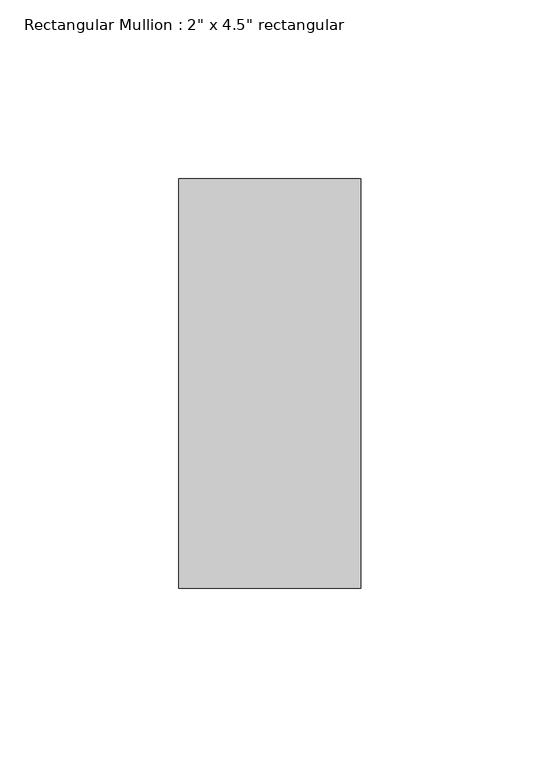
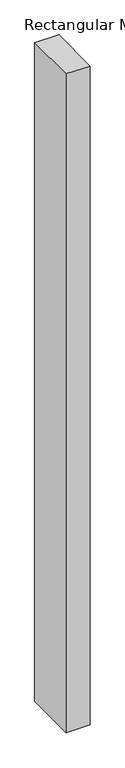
"""IFC4 building model written with IfcOpenShell, lengths in millimetres: member geometry."""

from ifc_helpers import new_model, si_unit, frame, origin, place, context, project, spatial, polyline, outline, extrude, source, transform, mapped, element, save


def member_ed9c17d6(model_context):
    return source(origin(), model_context, "Body", "SweptSolid", [
        extrude(outline(polyline([(0.0, 57.15), (0.0, -57.15), (-50.8, -57.15), (-50.8, 57.15), (0.0, 57.15)])), frame((0.0, 0.0, -1468.941054), z_axis=(0.0, 0.0, 1.0), x_axis=(1.0, 0.0, 0.0)), (0.0, 0.0, 1.0), 1468.941054),
    ])


if __name__ == "__main__":
    model = new_model("IFC4")
    model_context = context("Model", 3, world=origin())
    ifc_project = project(units=[si_unit("LENGTHUNIT", "METRE", prefix="MILLI")], contexts=[model_context])
    site = spatial("IfcSite", under=ifc_project)
    building = spatial("IfcBuilding", under=site)
    placement = place(None, origin())
    member_shape = member_ed9c17d6(model_context)
    element("IfcMember", 1, ObjectType="Rectangular Mullion : 2\" x 4.5\" rectangular", at=placement, inside=building, context=model_context, shape_type="MappedRepresentation", body=[
        mapped(member_shape, transform((0.0, 0.0, 0.0), x_axis=(1.0, 0.0, 0.0), y_axis=(0.0, 1.0, 0.0), z_axis=(0.0, 0.0, 1.0))),
    ])
    save(model, "model.ifc")
